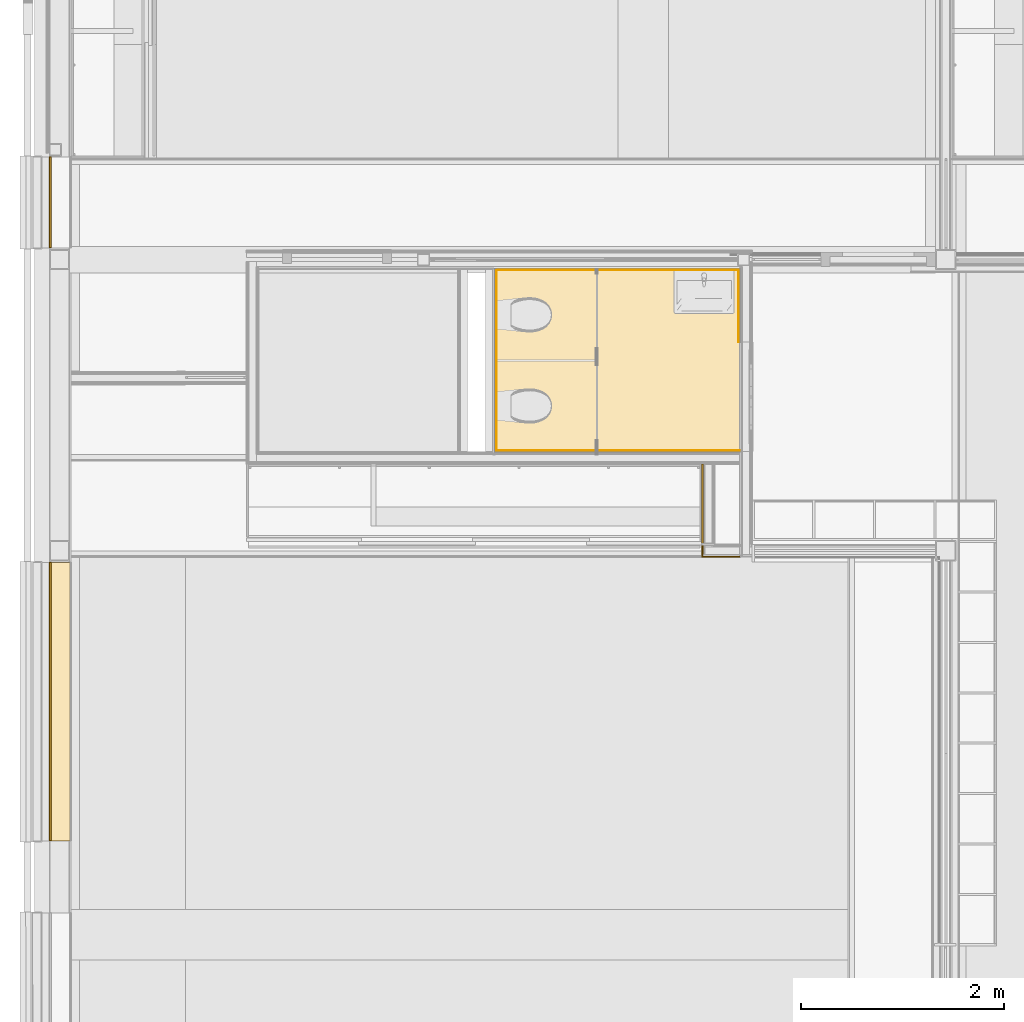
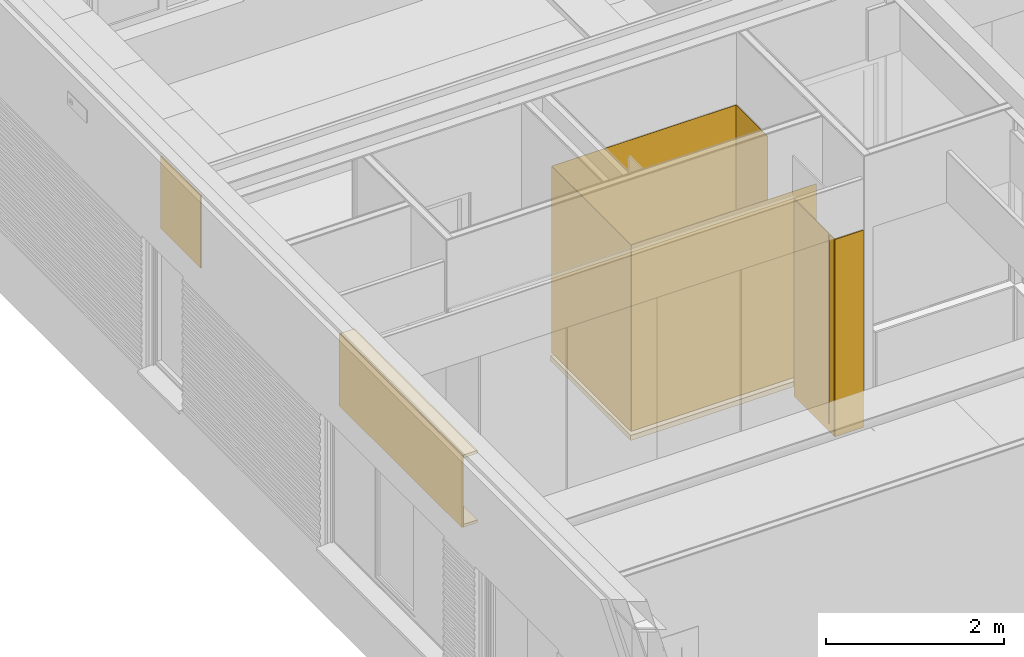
# One storey, part 105 of 137: 11 coverings, 9 elements without a shape of their own.
"""IFC2X3 building model written with IfcOpenShell, lengths in millimetres."""

from ifc_helpers import new_model, entity, si_unit, converted_unit, derived_unit, money_unit, direction, frame, origin_with_axes, place, context, subcontext, project, spatial, faceted_brep, material, type_object, element, aggregate, save


model = new_model("IFC2X3")

# Units and contexts
model_context = context("Model", 3, precision=0.01, world=origin_with_axes(), true_north=direction((0.0, 1.0)))
body_context = subcontext(model_context, "Body", "Model", "MODEL_VIEW")
ifc_project = project(units=[si_unit("LENGTHUNIT", "METRE", prefix="MILLI"), si_unit("AREAUNIT", "SQUARE_METRE"), si_unit("VOLUMEUNIT", "CUBIC_METRE"), converted_unit("PLANEANGLEUNIT", "DEGREE", entity("IfcPlaneAngleMeasure", 0.0174532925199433), si_unit("PLANEANGLEUNIT", "RADIAN"), dimensions=[0, 0, 0, 0, 0, 0, 0]), money_unit("EUR"), converted_unit("TIMEUNIT", "Year", entity("IfcTimeMeasure", 31556926.0), si_unit("TIMEUNIT", "SECOND"), dimensions=[0, 0, 1, 0, 0, 0, 0]), si_unit("MASSUNIT", "GRAM", prefix="KILO"), si_unit("THERMODYNAMICTEMPERATUREUNIT", "DEGREE_CELSIUS"), si_unit("LUMINOUSINTENSITYUNIT", "LUMEN"), si_unit("ENERGYUNIT", "JOULE", prefix="MEGA"), derived_unit("THERMALCONDUCTANCEUNIT", [(si_unit("POWERUNIT", "WATT"), 1), (si_unit("LENGTHUNIT", "METRE"), -1), (si_unit("THERMODYNAMICTEMPERATUREUNIT", "KELVIN"), -1)]), derived_unit("SPECIFICHEATCAPACITYUNIT", [(si_unit("ENERGYUNIT", "JOULE"), 1), (si_unit("MASSUNIT", "GRAM", prefix="KILO"), -1), (si_unit("THERMODYNAMICTEMPERATUREUNIT", "KELVIN"), -1)]), derived_unit("MASSDENSITYUNIT", [(si_unit("MASSUNIT", "GRAM", prefix="KILO"), 1), (si_unit("VOLUMEUNIT", "CUBIC_METRE"), -1)])], contexts=[model_context])

# Site, building, storey
site_placement = place(None, origin_with_axes())
site = spatial("IfcSite", under=ifc_project, at=site_placement, Name="Site", CompositionType="ELEMENT")
building_placement = place(site_placement, origin_with_axes())
building = spatial("IfcBuilding", under=site, at=building_placement, Name="Naam gebouw", CompositionType="ELEMENT")
storey_placement = place(building_placement, frame((0.0, 0.0, 3960.0), z_axis=(0.0, 0.0, 1.0), x_axis=(1.0, 0.0, 0.0)))
storey = spatial("IfcBuildingStorey", under=building, at=storey_placement, Name="1e verdieping", CompositionType="ELEMENT", Elevation=3960.0)

# Proxy, covering
building_element_proxy_type_1 = type_object("IfcBuildingElementProxyType", Name="22 Metal stud 125 oregon pine 125", PredefinedType="NOTDEFINED")
proxy_1_placement = place(storey_placement, frame((6815.0, 19387.4998112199, -100.0000000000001), z_axis=(0.0, 0.0, 1.0), x_axis=(-1.0, 0.0, 0.0)))
proxy_1 = element("IfcBuildingElementProxy", 1, at=proxy_1_placement, inside=storey, type_object=building_element_proxy_type_1, Name="_Wand-x")
ifc_material_1 = material(Name="Hout - Multiplex Oregon Pine")
covering_1_placement = place(proxy_1_placement, origin_with_axes())
covering_1 = element("IfcCovering", 2, at=covering_1_placement, material=ifc_material_1, Name="Hout - Multiplex Oregon Pine", PredefinedType="NOTDEFINED", context=body_context, shape_type="Brep", body=[
    faceted_brep([(370.9999999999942, 0.0, 2700.0), (0.0, 0.0, 2700.0), (0.0, -12.49999999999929, 2700.0), (370.9999999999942, -12.49999999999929, 2700.0), (370.9999999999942, 0.0, 0.0), (0.0, 0.0, 0.0), (0.0, -12.49999999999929, 0.0), (370.9999999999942, -12.49999999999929, 0.0)], [[[0, 1, 2, 3]], [[4, 5, 1, 0]], [[2, 1, 5, 6]], [[3, 2, 6, 7]], [[3, 7, 4, 0]], [[7, 6, 5, 4]]]),
])
aggregate(proxy_1, [covering_1])

# Slab, covering
slab_type = type_object("IfcSlabType", Name="43 Zwevende dekvloer 100", PredefinedType="NOTDEFINED")
slab_placement = place(storey_placement, frame((4404.99999999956, 20429.97621406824, 0.0), z_axis=(0.0, 0.0, 1.0), x_axis=(1.0, 0.0, 0.0)))
slab = element("IfcSlab", 3, at=slab_placement, inside=storey, type_object=slab_type, Name="_Vloer-x", PredefinedType="NOTDEFINED")
ifc_material_2 = material(Name="Cement - dekvloer")
covering_2_placement = place(slab_placement, origin_with_axes())
covering_2 = element("IfcCovering", 4, at=covering_2_placement, material=ifc_material_2, Name="Cement - dekvloer", PredefinedType="FLOORING", context=body_context, shape_type="Brep", body=[
    faceted_brep([(2410.000000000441, 0.0, -69.99999999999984), (2410.000000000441, 0.0, 0.0), (0.0, 0.0, 0.0), (0.0, 0.0, -69.99999999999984), (2410.000000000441, 32.4999999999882, -69.99999999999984), (2410.000000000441, 32.4999999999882, 0.0), (2535.000000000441, 32.4999999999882, 0.0), (2535.000000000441, 1112.499999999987, 0.0), (2410.000000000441, 1112.499999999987, 0.0), (2410.000000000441, 1799.999999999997, 0.0), (0.0, 1799.999999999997, 0.0), (0.0, 1799.999999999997, -69.99999999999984), (2410.000000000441, 1799.999999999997, -69.99999999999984), (2410.000000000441, 1112.499999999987, -69.99999999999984), (2535.000000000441, 1112.499999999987, -69.99999999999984), (2535.000000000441, 32.4999999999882, -69.99999999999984)], [[[0, 1, 2, 3]], [[4, 5, 1, 0]], [[2, 1, 5, 6, 7, 8, 9, 10]], [[3, 2, 10, 11]], [[3, 11, 12, 13, 14, 15, 4, 0]], [[15, 6, 5, 4]], [[14, 7, 6, 15]], [[13, 8, 7, 14]], [[12, 9, 8, 13]], [[11, 10, 9, 12]]]),
])
aggregate(slab, [covering_2])

# Proxy, covering
building_element_proxy_type_2 = type_object("IfcBuildingElementProxyType", Name="42 Tegelwerk 2600+ 12 x 2600", PredefinedType="NOTDEFINED")
proxy_2_placement = place(storey_placement, frame((6795.000000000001, 22209.97621406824, 0.0), z_axis=(0.0, 0.0, 1.0), x_axis=(-1.0, 0.0, 0.0)))
proxy_2 = element("IfcBuildingElementProxy", 5, at=proxy_2_placement, inside=storey, type_object=building_element_proxy_type_2, Name="_Wand-x")
ifc_material_3 = material(Name="Tegels - Wand")
covering_3_placement = place(proxy_2_placement, origin_with_axes())
covering_3 = element("IfcCovering", 6, at=covering_3_placement, material=ifc_material_3, Name="Tegels - Wand", PredefinedType="NOTDEFINED", context=body_context, shape_type="Brep", body=[
    faceted_brep([(2383.000004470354, -13.00000000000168, 49.99999999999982), (2383.000004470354, -13.00000000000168, 2600.0), (-8.000000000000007, -12.99999999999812, 2600.0), (-8.000000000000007, -13.00000000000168, 49.99999999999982), (2383.000004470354, -7.999999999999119, 2600.0), (2383.000004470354, -7.999999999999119, 49.99999999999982), (-8.000000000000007, -7.999999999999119, 2600.0), (-8.000000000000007, -7.999999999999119, 49.99999999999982)], [[[0, 1, 2, 3]], [[4, 1, 0, 5]], [[1, 4, 6, 2]], [[3, 2, 6, 7]], [[5, 0, 3, 7]], [[4, 5, 7, 6]]]),
])
aggregate(proxy_2, [covering_3])

proxy_3_placement = place(storey_placement, frame((4425.0, 22209.97621406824, 0.0), z_axis=(0.0, 0.0, 1.0), x_axis=(0.0, -1.0, 0.0)))
proxy_3 = element("IfcBuildingElementProxy", 7, at=proxy_3_placement, inside=storey, type_object=building_element_proxy_type_2, Name="_Wand-x")
covering_4_placement = place(proxy_3_placement, origin_with_axes())
covering_4 = element("IfcCovering", 8, at=covering_4_placement, material=ifc_material_3, Name="Tegels - Wand", PredefinedType="NOTDEFINED", context=body_context, shape_type="Brep", body=[
    faceted_brep([(1773.000004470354, -12.99999999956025, 2600.0), (1773.000004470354, -7.999999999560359, 2600.0), (-7.999999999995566, -8.000000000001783, 2600.0), (-7.999999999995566, -13.00000000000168, 2600.0), (1773.000004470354, -7.999999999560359, 49.99999999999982), (1773.000004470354, -12.99999999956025, 49.99999999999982), (-7.999999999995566, -8.000000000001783, 49.99999999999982), (-7.999999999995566, -13.00000000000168, 49.99999999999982)], [[[0, 1, 2, 3]], [[4, 1, 0, 5]], [[1, 4, 6, 2]], [[3, 2, 6, 7]], [[5, 0, 3, 7]], [[4, 5, 7, 6]]]),
])
aggregate(proxy_3, [covering_4])

proxy_4_placement = place(storey_placement, frame((4424.999999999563, 20449.97621406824, 0.0), z_axis=(0.0, 0.0, 1.0), x_axis=(1.0, 0.0, 0.0)))
proxy_4 = element("IfcBuildingElementProxy", 9, at=proxy_4_placement, inside=storey, type_object=building_element_proxy_type_2, Name="_Wand-x")
covering_5_placement = place(proxy_4_placement, origin_with_axes())
covering_5 = element("IfcCovering", 10, at=covering_5_placement, material=ifc_material_3, Name="Tegels - Wand", PredefinedType="NOTDEFINED", context=body_context, shape_type="Brep", body=[
    faceted_brep([(-7.999999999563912, -7.999999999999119, 49.99999999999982), (-7.999999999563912, -7.999999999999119, 2600.0), (2390.000000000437, -7.999999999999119, 2600.0), (2390.000000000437, -7.999999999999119, 49.99999999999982), (-7.999999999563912, -12.99999999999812, 2600.0), (-7.999999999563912, -13.00000000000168, 49.99999999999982), (2390.000000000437, -12.99999999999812, 2600.0), (2390.000000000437, -12.99999999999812, 49.99999999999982)], [[[0, 1, 2, 3]], [[4, 1, 0, 5]], [[1, 4, 6, 2]], [[2, 6, 7, 3]], [[5, 0, 3, 7]], [[4, 5, 7, 6]]]),
])
aggregate(proxy_4, [covering_5])

proxy_5_placement = place(storey_placement, frame((6795.000000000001, 21509.97621853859, 0.0), z_axis=(0.0, 0.0, 1.0), x_axis=(0.0, 1.0, 0.0)))
proxy_5 = element("IfcBuildingElementProxy", 11, at=proxy_5_placement, inside=storey, type_object=building_element_proxy_type_2, Name="_Wand-x")
covering_6_placement = place(proxy_5_placement, origin_with_axes())
covering_6 = element("IfcCovering", 12, at=covering_6_placement, material=ifc_material_3, Name="Tegels - Wand", PredefinedType="NOTDEFINED", context=body_context, shape_type="Brep", body=[
    faceted_brep([(713.0000000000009, -12.9999999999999, 49.99999999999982), (713.0000000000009, -12.9999999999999, 2600.0), (0.0, -12.9999999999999, 2600.0), (0.0, -12.9999999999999, 49.99999999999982), (713.0000000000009, -8.000000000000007, 2600.0), (713.0000000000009, -8.000000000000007, 49.99999999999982), (0.0, -8.000000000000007, 2600.0), (0.0, -8.000000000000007, 49.99999999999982)], [[[0, 1, 2, 3]], [[4, 1, 0, 5]], [[1, 4, 6, 2]], [[6, 7, 3, 2]], [[5, 0, 3, 7]], [[4, 5, 7, 6]]]),
])
aggregate(proxy_5, [covering_6])

# Beam, coverings
beam_type = type_object("IfcBeamType", Name="31 HSB boven kozijnen 214 x 1000", PredefinedType="BEAM")
beam_1_placement = place(storey_placement, frame((213.9999999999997, 16584.9998112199, 2600.000000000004), z_axis=(0.0, 0.0, 1.0), x_axis=(1.0, 0.0, 0.0)))
beam_1 = element("IfcBeam", 13, at=beam_1_placement, inside=storey, type_object=beam_type, Name="28_Balk-x", ObjectType="BEAM")
ifc_material_4 = material(Name="Hout - Vloer")
covering_7_placement = place(beam_1_placement, origin_with_axes())
covering_7 = element("IfcCovering", 14, at=covering_7_placement, material=ifc_material_4, Name="Hout - Vloer", PredefinedType="NOTDEFINED", context=body_context, shape_type="Brep", body=[
    faceted_brep([(-196.0000019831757, 2749.999999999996, 999.9999999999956), (-196.0000019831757, 2749.999999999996, 961.9999910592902), (-196.0000019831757, 0.0, 961.9999910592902), (-196.0000019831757, 0.0, 999.9999999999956), (-11.99999006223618, 2749.999999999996, 999.9999999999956), (-11.99999006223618, 2749.999999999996, 962.0000059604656), (-11.99999006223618, 0.0, 962.0000059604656), (-11.99999006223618, 0.0, 999.9999999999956)], [[[0, 1, 2, 3]], [[0, 4, 5, 1]], [[1, 5, 6, 2]], [[3, 2, 6, 7]], [[4, 0, 3, 7]], [[5, 4, 7, 6]]]),
])
covering_8_placement = place(beam_1_placement, origin_with_axes())
covering_8 = element("IfcCovering", 15, at=covering_8_placement, material=ifc_material_4, Name="Hout - Vloer", PredefinedType="NOTDEFINED", context=body_context, shape_type="Brep", body=[
    faceted_brep([(-196.0000083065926, 2749.999999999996, 49.99999999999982), (-196.0000083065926, 2749.999999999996, 12.00000596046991), (-196.0000083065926, 0.0, 12.00000596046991), (-196.0000083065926, 0.0, 49.99999999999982), (-11.99999638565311, 2749.999999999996, 49.99999999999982), (-11.99999638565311, 2749.999999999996, 12.00000596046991), (-11.99999638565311, 0.0, 12.00000596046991), (-11.99999638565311, 0.0, 49.99999999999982)], [[[0, 1, 2, 3]], [[0, 4, 5, 1]], [[1, 5, 6, 2]], [[3, 2, 6, 7]], [[4, 0, 3, 7]], [[5, 4, 7, 6]]]),
])
ifc_material_5 = material(Name="Hout - Multiplex")
covering_9_placement = place(beam_1_placement, origin_with_axes())
covering_9 = element("IfcCovering", 16, at=covering_9_placement, material=ifc_material_5, Name="Hout - Multiplex", PredefinedType="NOTDEFINED", context=body_context, shape_type="Brep", body=[
    faceted_brep([(-214.0000025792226, 2749.999999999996, 999.9999999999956), (-214.0000025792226, 2749.999999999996, 11.99999999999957), (-214.0000025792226, 0.0, 11.99999999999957), (-214.0000025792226, 0.0, 999.9999999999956), (-196.0000019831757, 2749.999999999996, 999.9999999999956), (-196.0000019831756, 2749.999999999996, 11.99999999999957), (-196.0000019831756, 0.0, 11.99999999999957), (-196.0000019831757, 0.0, 999.9999999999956)], [[[0, 1, 2, 3]], [[0, 4, 5, 1]], [[1, 5, 6, 2]], [[3, 2, 6, 7]], [[4, 0, 3, 7]], [[5, 4, 7, 6]]]),
])
aggregate(beam_1, [covering_7, covering_8, covering_9])

# Beam, covering
beam_2_placement = place(storey_placement, frame((214.0000000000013, 22439.99984707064, 2600.000000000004), z_axis=(0.0, 0.0, 1.0), x_axis=(1.0, 0.0, 0.0)))
beam_2 = element("IfcBeam", 17, at=beam_2_placement, inside=storey, type_object=beam_type, Name="28_Balk-x", ObjectType="BEAM")
covering_10_placement = place(beam_2_placement, origin_with_axes())
covering_10 = element("IfcCovering", 18, at=covering_10_placement, material=ifc_material_5, Name="Hout - Multiplex", PredefinedType="NOTDEFINED", context=body_context, shape_type="Brep", body=[
    faceted_brep([(-214.0000025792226, 899.9999999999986, 999.9999999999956), (-214.0000025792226, 899.9999999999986, 11.99999999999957), (-214.0000025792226, 0.0, 11.99999999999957), (-214.0000025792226, 0.0, 999.9999999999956), (-196.0000019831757, 899.9999999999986, 999.9999999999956), (-196.0000019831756, 899.9999999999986, 11.99999999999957), (-196.0000019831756, 0.0, 11.99999999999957), (-196.0000019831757, 0.0, 999.9999999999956)], [[[0, 1, 2, 3]], [[0, 4, 5, 1]], [[1, 5, 6, 2]], [[3, 2, 6, 7]], [[4, 0, 3, 7]], [[5, 4, 7, 6]]]),
])
aggregate(beam_2, [covering_10])

# Proxy, covering
proxy_6_placement = place(storey_placement, frame((6444.000000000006, 19387.4998112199, -100.0000000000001), z_axis=(0.0, 0.0, 1.0), x_axis=(0.0, 1.0, 0.0)))
proxy_6 = element("IfcBuildingElementProxy", 19, at=proxy_6_placement, inside=storey, type_object=building_element_proxy_type_1, Name="_Wand-x")
covering_11_placement = place(proxy_6_placement, origin_with_axes())
covering_11 = element("IfcCovering", 20, at=covering_11_placement, material=ifc_material_1, Name="Hout - Multiplex Oregon Pine", PredefinedType="NOTDEFINED", context=body_context, shape_type="Brep", body=[
    faceted_brep([(135.4764028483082, 0.0, 2700.0), (135.4764028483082, -12.50000000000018, 2700.0), (917.4764028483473, -12.50000000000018, 2700.0), (917.4764028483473, 0.0, 2700.0), (135.4764028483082, -12.50000000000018, 100.0000000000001), (135.4764028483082, 0.0, 100.0000000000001), (117.4764028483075, -12.50000000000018, 100.0000000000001), (117.4764028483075, -12.50000000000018, 2700.0), (12.49999999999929, -12.50000000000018, 2700.0), (12.49999999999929, -12.50000000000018, 0.0), (917.4764028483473, -12.50000000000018, 0.0), (917.4764028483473, 0.0, 0.0), (12.49999999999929, 0.0, 0.0), (12.49999999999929, 0.0, 2700.0), (117.4764028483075, 0.0, 2700.0), (117.4764028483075, 0.0, 100.0000000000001)], [[[0, 1, 2, 3]], [[4, 1, 0, 5]], [[6, 7, 8, 9, 10, 2, 1, 4]], [[3, 2, 10, 11]], [[5, 0, 3, 11, 12, 13, 14, 15]], [[6, 4, 5, 15]], [[14, 7, 6, 15]], [[7, 14, 13, 8]], [[9, 8, 13, 12]], [[11, 10, 9, 12]]]),
])
aggregate(proxy_6, [covering_11])

save(model, "model.ifc")
